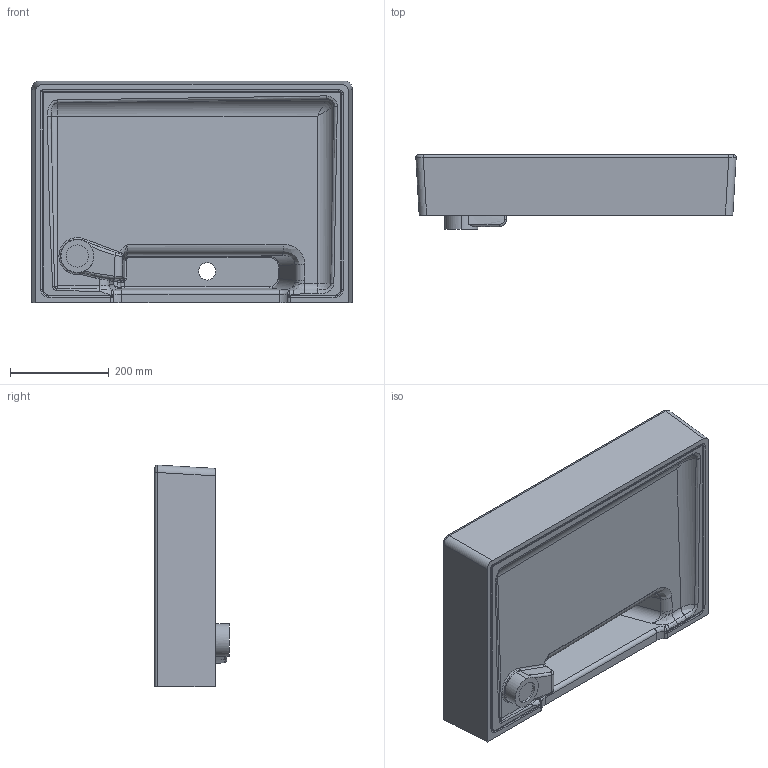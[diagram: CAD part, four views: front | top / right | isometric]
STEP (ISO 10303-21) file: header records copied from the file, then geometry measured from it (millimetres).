
FILE_DESCRIPTION (( 'STEP AP203' ), '1' );
FILE_NAME ('AR065 Lavabo.STEP', '2022-04-27T06:36:07', ( '' ), ( '' ), 'SwSTEP 2.0', 'SolidWorks 2021', '' );
FILE_SCHEMA (( 'CONFIG_CONTROL_DESIGN' ));
Length unit declared in the file: millimetre
Products named in the file (1): AR065 Lavabo
Bounding box: 649.41 x 150.3 x 449.7 mm (x, y, z)
Volume: 13931927.8 mm3; surface area: 1202008.8 mm2
Topology: 2 solids, 2 shells, 681 faces, 1608 edges, 918 vertices
Faces by surface type: cylinder 298, torus 140, bspline 131, plane 104, sphere 8
Entity records: 28418 total; most frequent: CARTESIAN_POINT 13489, ORIENTED_EDGE 3186, DIRECTION 3136, EDGE_CURVE 1593, AXIS2_PLACEMENT_3D 1279, VERTEX_POINT 918, CIRCLE 728, EDGE_LOOP 717
